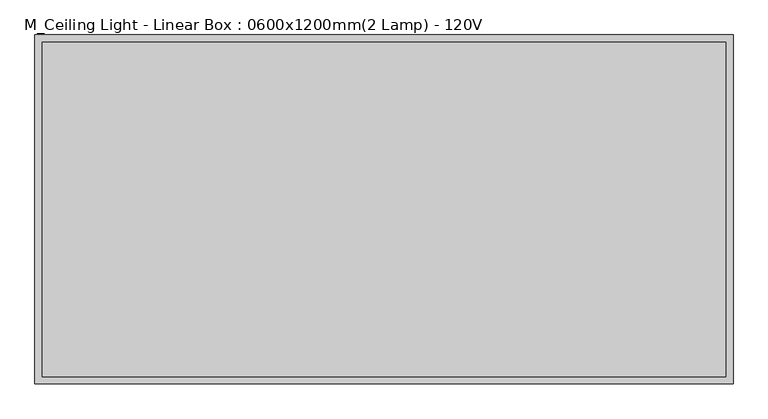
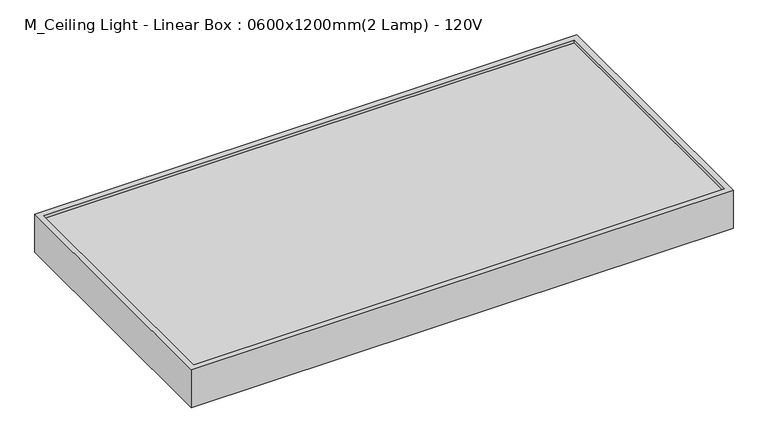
"""IFC4 building model written with IfcOpenShell, lengths in millimetres: light fixture geometry, M_Ceiling Light - Linear Box : 0600x1200mm(2 Lamp) - 120V."""

from ifc_helpers import new_model, si_unit, frame, origin, origin_with_axes, place, context, project, spatial, polyline, outline, extrude, source, transform, mapped, element, save


def m_ceiling_light_linear_box_0600x1200mm_2_lamp_120v_1db497d3(model_context):
    return source(origin(), model_context, "Body", "SweptSolid", [
        extrude(outline(polyline([(600.0, 0.0), (600.0, -600.0), (-600.0, -600.0), (-600.0, 0.0), (600.0, 0.0)]), holes=[polyline([(587.3, -12.7), (-587.3, -12.7), (-587.3, -587.3), (587.3, -587.3), (587.3, -12.7)])]), origin_with_axes(), (0.0, 0.0, 1.0), 88.9),
        extrude(outline(polyline([(587.3, -12.7), (587.3, -587.3), (-587.3, -587.3), (-587.3, -12.7), (587.3, -12.7)])), frame((0.0, 0.0, 76.2), z_axis=(0.0, 0.0, 1.0), x_axis=(1.0, 0.0, 0.0)), (0.0, 0.0, 1.0), 6.35),
    ])


if __name__ == "__main__":
    model = new_model("IFC4")
    model_context = context("Model", 3, world=origin())
    ifc_project = project(units=[si_unit("LENGTHUNIT", "METRE", prefix="MILLI")], contexts=[model_context])
    site = spatial("IfcSite", under=ifc_project)
    building = spatial("IfcBuilding", under=site)
    placement = place(None, origin())
    m_ceiling_light_linear_box_0600x1200mm_2_lamp_120v_shape = m_ceiling_light_linear_box_0600x1200mm_2_lamp_120v_1db497d3(model_context)
    element("IfcLightFixture", 1, ObjectType="M_Ceiling Light - Linear Box : 0600x1200mm(2 Lamp) - 120V", at=placement, inside=building, context=model_context, shape_type="MappedRepresentation", body=[
        mapped(m_ceiling_light_linear_box_0600x1200mm_2_lamp_120v_shape, transform((0.0, 0.0, 0.0), x_axis=(1.0, 0.0, 0.0), y_axis=(0.0, 1.0, 0.0), z_axis=(0.0, 0.0, 1.0))),
    ])
    save(model, "model.ifc")
